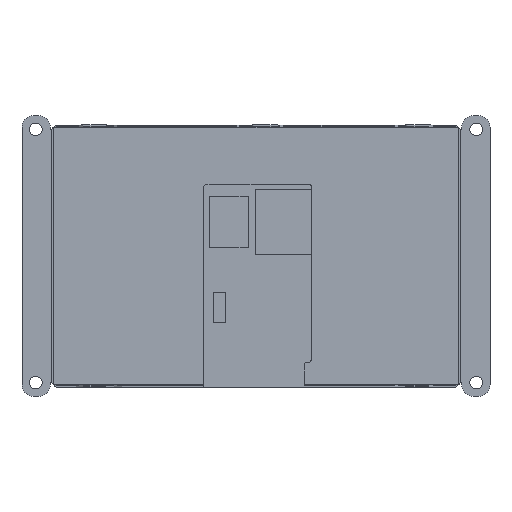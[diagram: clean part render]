
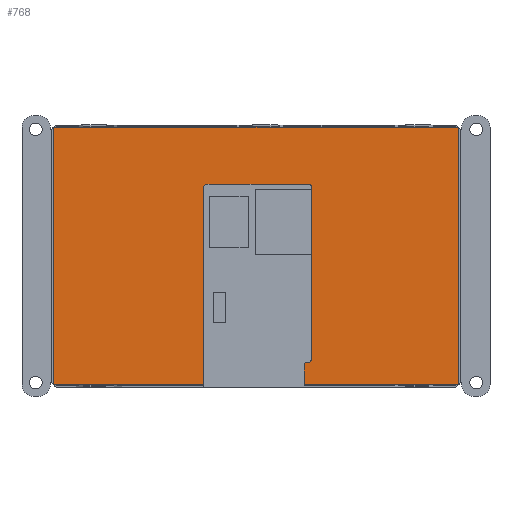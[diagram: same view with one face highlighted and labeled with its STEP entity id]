
A CAD part, top view. The second image highlights one B-rep face of the part: STEP entity #768.
In plain terms, the highlighted planar face has unit normal (0, 0, 1).
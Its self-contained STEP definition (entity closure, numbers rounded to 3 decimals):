
#163=B_SPLINE_CURVE_WITH_KNOTS('',3,(#5714,#5715,#5716,#5717),
 .UNSPECIFIED.,.F.,.F.,(4,4),(0.,1.),.UNSPECIFIED.);
#165=B_SPLINE_CURVE_WITH_KNOTS('',3,(#5728,#5729,#5730,#5731),
 .UNSPECIFIED.,.F.,.F.,(4,4),(0.,1.),.UNSPECIFIED.);
#167=B_SPLINE_CURVE_WITH_KNOTS('',3,(#5740,#5741,#5742,#5743),
 .UNSPECIFIED.,.F.,.F.,(4,4),(0.,1.),.UNSPECIFIED.);
#169=B_SPLINE_CURVE_WITH_KNOTS('',3,(#5749,#5750,#5751,#5752),
 .UNSPECIFIED.,.F.,.F.,(4,4),(0.,1.),.UNSPECIFIED.);
#768=ADVANCED_FACE('',(#1029),#892,.F.);
#892=PLANE('',#3211);
#1029=FACE_OUTER_BOUND('',#1190,.T.);
#1190=EDGE_LOOP('',(#1758,#1759,#1760,#1761));
#1758=ORIENTED_EDGE('',*,*,#2513,.T.);
#1759=ORIENTED_EDGE('',*,*,#2517,.T.);
#1760=ORIENTED_EDGE('',*,*,#2520,.T.);
#1761=ORIENTED_EDGE('',*,*,#2522,.T.);
#2178=VERTEX_POINT('',#5713);
#2179=VERTEX_POINT('',#5718);
#2181=VERTEX_POINT('',#5727);
#2183=VERTEX_POINT('',#5739);
#2513=EDGE_CURVE('',#2179,#2178,#163,.T.);
#2517=EDGE_CURVE('',#2178,#2181,#165,.T.);
#2520=EDGE_CURVE('',#2181,#2183,#167,.T.);
#2522=EDGE_CURVE('',#2183,#2179,#169,.T.);
#3211=AXIS2_PLACEMENT_3D('',#5754,#3631,#3632);
#3631=DIRECTION('',(0.,0.,-1.));
#3632=DIRECTION('',(-1.,0.,0.));
#5713=CARTESIAN_POINT('',(198.778,58.549,-2.15));
#5714=CARTESIAN_POINT('',(304.198,58.549,-2.15));
#5715=CARTESIAN_POINT('',(269.058,58.549,-2.15));
#5716=CARTESIAN_POINT('',(233.918,58.549,-2.15));
#5717=CARTESIAN_POINT('',(198.778,58.549,-2.15));
#5718=CARTESIAN_POINT('',(304.198,58.549,-2.15));
#5727=CARTESIAN_POINT('',(198.778,-8.531,-2.15));
#5728=CARTESIAN_POINT('',(198.778,58.549,-2.15));
#5729=CARTESIAN_POINT('',(198.778,36.189,-2.15));
#5730=CARTESIAN_POINT('',(198.778,13.829,-2.15));
#5731=CARTESIAN_POINT('',(198.778,-8.531,-2.15));
#5739=CARTESIAN_POINT('',(304.198,-8.531,-2.15));
#5740=CARTESIAN_POINT('',(198.778,-8.531,-2.15));
#5741=CARTESIAN_POINT('',(233.918,-8.531,-2.15));
#5742=CARTESIAN_POINT('',(269.058,-8.531,-2.15));
#5743=CARTESIAN_POINT('',(304.198,-8.531,-2.15));
#5749=CARTESIAN_POINT('',(304.198,-8.531,-2.15));
#5750=CARTESIAN_POINT('',(304.198,13.829,-2.15));
#5751=CARTESIAN_POINT('',(304.198,36.189,-2.15));
#5752=CARTESIAN_POINT('',(304.198,58.549,-2.15));
#5754=CARTESIAN_POINT('',(251.488,58.549,-2.15));
